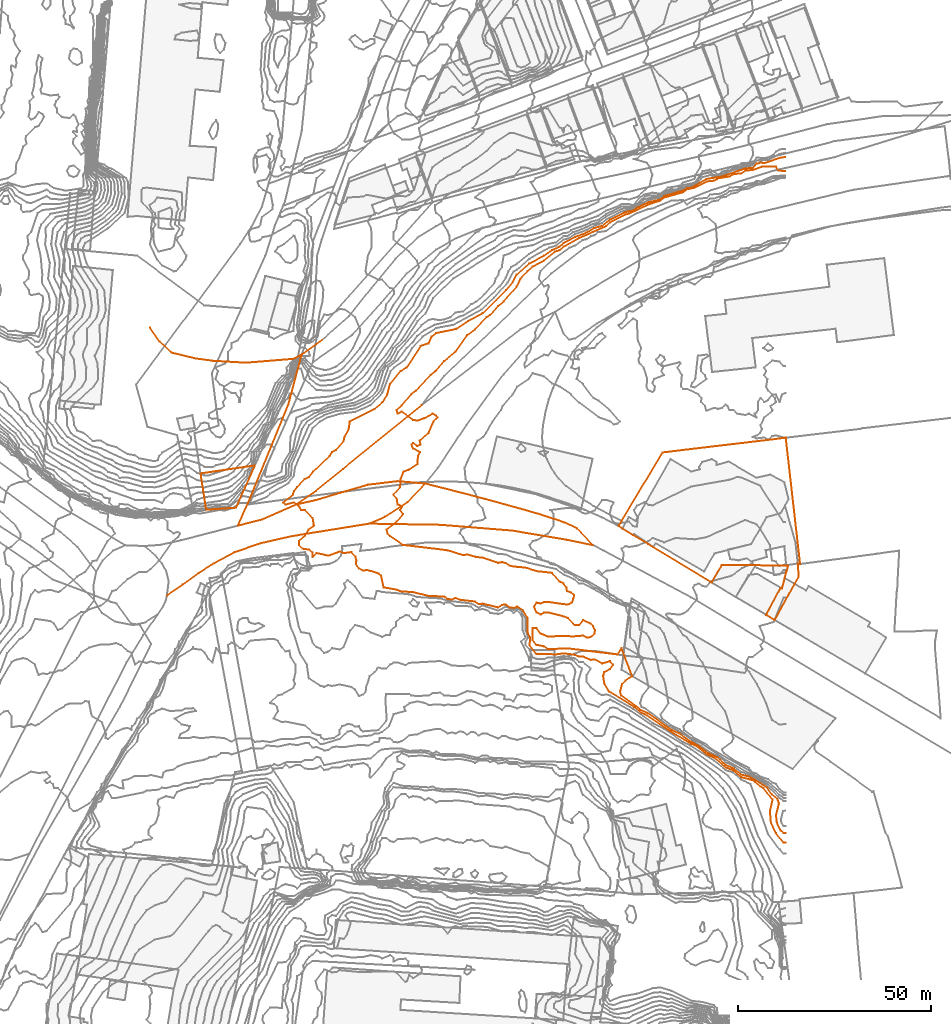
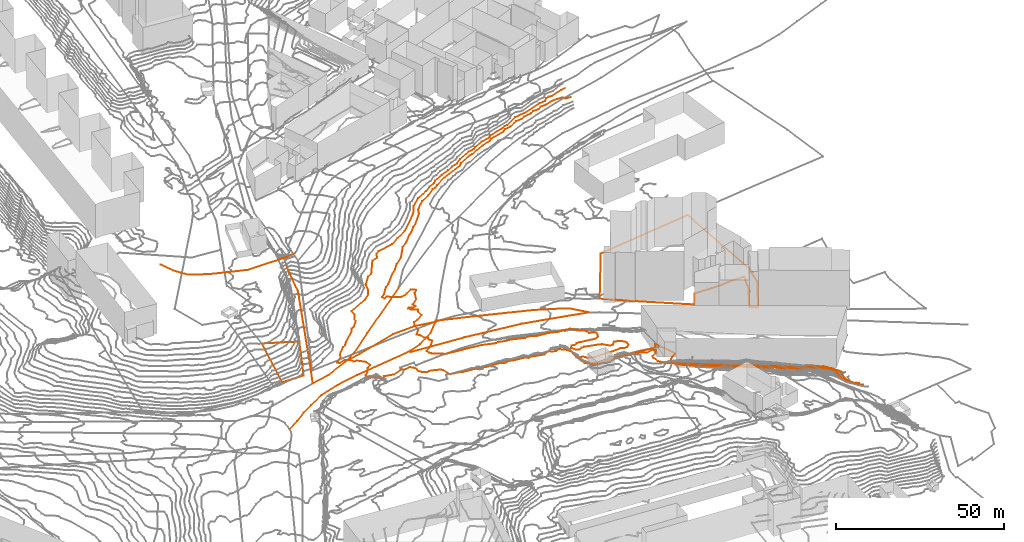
# Not in any storey, part 274 of 419: 14 proxies.
"""IFC2X3 model written with IfcOpenShell, lengths in metres."""

from ifc_helpers import new_model, entity, si_unit, frame, origin_with_axes, place, context, subcontext, project, element, save


model = new_model("IFC2X3")

# Units and contexts
model_context = context("Model", 3, precision=1e-05, world=origin_with_axes())
body_context = subcontext(model_context, "Body", "Model", "MODEL_VIEW")
ifc_project = project(units=[si_unit("AREAUNIT", "SQUARE_METRE"), si_unit("LENGTHUNIT", "METRE")], contexts=[model_context])

# Proxies
proxy_1_placement = place(None, frame((868.6920204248, 558.3976909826, 71.9), z_axis=(0.0, 0.0, 1.0), x_axis=(1.0, 0.0, 0.0)))
element("IfcBuildingElementProxy", 1, at=proxy_1_placement, Name="Route 33", ObjectType="NOTDEFINED", context=body_context, shape_type="GeometricCurveSet", body=[
    entity("IfcGeometricCurveSet", [entity("IfcPolyline", [entity("IfcCartesianPoint", [14.5, 10.4000000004, -0.9]), entity("IfcCartesianPoint", [10.0, 5.5999999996, -0.5]), entity("IfcCartesianPoint", [4.2000000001, 1.7999999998, -0.2]), entity("IfcCartesianPoint", [0.0, 0.0, 0.0])])]),
])
proxy_2_placement = place(None, frame((834.6920204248, 557.8976909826, 72.2), z_axis=(0.0, 0.0, 1.0), x_axis=(1.0, 0.0, 0.0)))
element("IfcBuildingElementProxy", 2, at=proxy_2_placement, Name="Route 42", ObjectType="NOTDEFINED", context=body_context, shape_type="GeometricCurveSet", body=[
    entity("IfcGeometricCurveSet", [entity("IfcPolyline", [entity("IfcCartesianPoint", [14.9, 5.4000000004, -0.1]), entity("IfcCartesianPoint", [6.3, 1.5999999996, -0.1]), entity("IfcCartesianPoint", [0.0, 0.0, 0.0])])]),
])
proxy_3_placement = place(None, frame((834.6920204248, 557.8976909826, 72.2), z_axis=(0.0, 0.0, 1.0), x_axis=(1.0, 0.0, 0.0)))
element("IfcBuildingElementProxy", 3, at=proxy_3_placement, Name="Route 70", ObjectType="NOTDEFINED", context=body_context, shape_type="GeometricCurveSet", body=[
    entity("IfcGeometricCurveSet", [entity("IfcPolyline", [entity("IfcCartesianPoint", [0.0, 0.0, 0.0]), entity("IfcCartesianPoint", [3.2000000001, 7.2999999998, 1.9]), entity("IfcCartesianPoint", [13.1, 31.5, 9.8]), entity("IfcCartesianPoint", [16.3, 43.5, 10.1]), entity("IfcCartesianPoint", [16.6, 44.4000000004, 10.1])])]),
])
proxy_4_placement = place(None, frame((848.9920204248, 601.0976909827, 86.4), z_axis=(0.0, 0.0, 1.0), x_axis=(1.0, 0.0, 0.0)))
element("IfcBuildingElementProxy", 4, at=proxy_4_placement, Name="Route 103", ObjectType="NOTDEFINED", context=body_context, shape_type="GeometricCurveSet", body=[
    entity("IfcGeometricCurveSet", [entity("IfcPolyline", [entity("IfcCartesianPoint", [7.6, 5.0, -3.6]), entity("IfcCartesianPoint", [2.2999999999, 1.2000000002, -1.0]), entity("IfcCartesianPoint", [0.0, 0.0, 0.0])])]),
])
proxy_5_placement = place(None, frame((849.5920204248, 563.2976909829, 72.1), z_axis=(0.0, 0.0, 1.0), x_axis=(1.0, 0.0, 0.0)))
element("IfcBuildingElementProxy", 5, at=proxy_5_placement, Name="Route 166", ObjectType="NOTDEFINED", context=body_context, shape_type="GeometricCurveSet", body=[
    entity("IfcGeometricCurveSet", [entity("IfcPolyline", [entity("IfcCartesianPoint", [0.0, 0.0, 0.0]), entity("IfcCartesianPoint", [5.3, 3.5999999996, -0.1]), entity("IfcCartesianPoint", [12.3, 9.2999999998, -0.1]), entity("IfcCartesianPoint", [32.7, 25.7999999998, -0.6])])]),
])
proxy_6_placement = place(None, frame((811.8920204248, 609.1976909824, 92.3), z_axis=(0.0, 0.0, 1.0), x_axis=(1.0, 0.0, 0.0)))
element("IfcBuildingElementProxy", 6, at=proxy_6_placement, Name="Route 208", ObjectType="NOTDEFINED", context=body_context, shape_type="GeometricCurveSet", body=[
    entity("IfcGeometricCurveSet", [entity("IfcPolyline", [entity("IfcCartesianPoint", [37.1, -8.0999999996, -5.9]), entity("IfcCartesianPoint", [24.7999999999, -9.0999999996, -5.1]), entity("IfcCartesianPoint", [16.3999999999, -8.5999999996, -3.5]), entity("IfcCartesianPoint", [11.7999999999, -8.0, -2.8]), entity("IfcCartesianPoint", [5.6, -6.5, -1.7]), entity("IfcCartesianPoint", [2.5, -3.5999999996, -0.9]), entity("IfcCartesianPoint", [0.0, 0.0, 0.0])])]),
])
proxy_7_placement = place(None, frame((883.1920204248, 568.7976909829, 71.4), z_axis=(0.0, 0.0, 1.0), x_axis=(1.0, 0.0, 0.0)))
element("IfcBuildingElementProxy", 7, at=proxy_7_placement, Name="Route 218", ObjectType="NOTDEFINED", context=body_context, shape_type="GeometricCurveSet", body=[
    entity("IfcGeometricCurveSet", [entity("IfcPolyline", [entity("IfcCartesianPoint", [43.5, -16.0, -2.5]), entity("IfcCartesianPoint", [39.4, -11.6000000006, -2.3]), entity("IfcCartesianPoint", [36.2000000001, -10.1000000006, -2.2]), entity("IfcCartesianPoint", [29.2000000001, -7.8000000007, -1.6]), entity("IfcCartesianPoint", [15.6, -4.0, -0.9]), entity("IfcCartesianPoint", [0.0, 0.0, 0.0])])]),
])
proxy_8_placement = place(None, frame((849.5920204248, 563.2976909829, 72.1), z_axis=(0.0, 0.0, 1.0), x_axis=(1.0, 0.0, 0.0)))
element("IfcBuildingElementProxy", 8, at=proxy_8_placement, Name="Route 302", ObjectType="NOTDEFINED", context=body_context, shape_type="GeometricCurveSet", body=[
    entity("IfcGeometricCurveSet", [entity("IfcPolyline", [entity("IfcCartesianPoint", [0.0, 0.0, 0.0]), entity("IfcCartesianPoint", [5.2, 1.1999999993, -0.1]), entity("IfcCartesianPoint", [18.8, 5.1999999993, -0.2]), entity("IfcCartesianPoint", [26.5, 6.0999999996, -0.6]), entity("IfcCartesianPoint", [33.6, 5.5, -1.1])])]),
])
proxy_9_placement = place(None, frame((816.2920204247, 539.7976909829, 73.0), z_axis=(0.0, 0.0, 1.0), x_axis=(1.0, 0.0, 0.0)))
element("IfcBuildingElementProxy", 9, at=proxy_9_placement, Name="Route 304", ObjectType="NOTDEFINED", context=body_context, shape_type="GeometricCurveSet", body=[
    entity("IfcGeometricCurveSet", [entity("IfcPolyline", [entity("IfcCartesianPoint", [52.4, 18.5999999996, -1.1]), entity("IfcCartesianPoint", [32.0, 15.2999999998, -0.8]), entity("IfcCartesianPoint", [24.2000000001, 13.5, -0.6]), entity("IfcCartesianPoint", [17.5, 11.1999999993, -0.5]), entity("IfcCartesianPoint", [12.1000000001, 8.2999999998, -0.5]), entity("IfcCartesianPoint", [8.2000000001, 5.7999999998, -0.4]), entity("IfcCartesianPoint", [4.1000000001, 2.7999999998, -0.3]), entity("IfcCartesianPoint", [0.0, 0.0, 0.0])])]),
])
proxy_10_placement = place(None, frame((868.6920204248, 558.3976909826, 71.4), z_axis=(0.0, 0.0, 1.0), x_axis=(1.0, 0.0, 0.0)))
element("IfcBuildingElementProxy", 10, at=proxy_10_placement, Name="Route 307", ObjectType="NOTDEFINED", context=body_context, shape_type="GeometricCurveSet", body=[
    entity("IfcGeometricCurveSet", [entity("IfcPolyline", [entity("IfcCartesianPoint", [58.0, -5.5999999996, -2.5]), entity("IfcCartesianPoint", [51.3, -4.2000000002, -2.3]), entity("IfcCartesianPoint", [37.0, -1.7999999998, -1.6]), entity("IfcCartesianPoint", [18.4, -0.2999999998, -0.9]), entity("IfcCartesianPoint", [0.0, 0.0, 0.0])])]),
])
proxy_11_placement = place(None, frame((933.2820204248, 557.7476909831, 68.5740369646), z_axis=(0.0, 0.0, 1.0), x_axis=(1.0, 0.0, 0.0)))
element("IfcBuildingElementProxy", 11, at=proxy_11_placement, Name="Cadastre 22", ObjectType="NOTDEFINED", context=body_context, shape_type="GeometricCurveSet", body=[
    entity("IfcGeometricCurveSet", [entity("IfcPolyline", [entity("IfcCartesianPoint", [0.7899999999, 1.3199999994, 0.4207185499]), entity("IfcCartesianPoint", [11.4099999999, 19.0999999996, 0.8636112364]), entity("IfcCartesianPoint", [43.38, 22.9099999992, 1.3501617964]), entity("IfcCartesianPoint", [47.1, -9.8100000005, -0.871437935]), entity("IfcCartesianPoint", [46.5, -9.6800000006, -0.7817386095]), entity("IfcCartesianPoint", [46.74, -13.0500000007, -2.1540372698]), entity("IfcCartesianPoint", [45.62, -14.9500000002, -2.2720380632]), entity("IfcCartesianPoint", [40.5, -24.3200000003, -2.6283382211]), entity("IfcCartesianPoint", [38.25, -22.9900000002, -2.4271905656]), entity("IfcCartesianPoint", [42.0, -15.9900000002, -2.3297352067]), entity("IfcCartesianPoint", [42.36, -16.1500000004, -2.4280347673]), entity("IfcCartesianPoint", [43.1, -13.4900000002, -2.2112368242]), entity("IfcCartesianPoint", [43.49, -11.9400000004, -1.9689391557]), entity("IfcCartesianPoint", [43.96, -10.1600000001, -1.112936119]), entity("IfcCartesianPoint", [43.5199999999, -10.1800000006, -1.1267360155]), entity("IfcCartesianPoint", [40.0, -10.2300000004, -0.9704725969]), entity("IfcCartesianPoint", [35.61, -10.1000000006, -1.5247869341]), entity("IfcCartesianPoint", [32.73, -10.0300000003, -1.5952355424]), entity("IfcCartesianPoint", [26.7999999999, -10.0300000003, -1.3764684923]), entity("IfcCartesianPoint", [24.1499999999, -14.6100000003, -1.7332061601]), entity("IfcCartesianPoint", [7.76, -4.6600000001, -0.6861414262]), entity("IfcCartesianPoint", [3.84, -2.3300000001, -0.2964367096]), entity("IfcCartesianPoint", [0.0, 0.0, 0.0]), entity("IfcCartesianPoint", [0.7899999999, 1.3199999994, 0.4207185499])])]),
])
proxy_12_placement = place(None, frame((825.0420204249, 571.417690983, 81.9051187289), z_axis=(0.0, 0.0, 1.0), x_axis=(1.0, 0.0, 0.0)))
element("IfcBuildingElementProxy", 12, at=proxy_12_placement, Name="Cadastre 102", ObjectType="NOTDEFINED", context=body_context, shape_type="GeometricCurveSet", body=[
    entity("IfcGeometricCurveSet", [entity("IfcPolyline", [entity("IfcCartesianPoint", [0.0, 0.0, 0.0]), entity("IfcCartesianPoint", [14.0399999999, 2.0800000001, -5.4702206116]), entity("IfcCartesianPoint", [9.1699999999, -8.8900000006, -9.4673713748]), entity("IfcCartesianPoint", [1.4399999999, -9.4000000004, -8.8740918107]), entity("IfcCartesianPoint", [0.0, 0.0, 0.0])])]),
])
proxy_13_placement = place(None, frame((873.2587082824, 556.8976909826, 71.0), z_axis=(0.0, 0.0, 1.0), x_axis=(1.0, 0.0, 0.0)))
element("IfcBuildingElementProxy", 13, at=proxy_13_placement, Name="Contour 71.0 m", ObjectType="NOTDEFINED", context=body_context, shape_type="GeometricCurveSet", body=[
    entity("IfcGeometricCurveSet", [entity("IfcPolyline", [entity("IfcCartesianPoint", [103.3333121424, 92.8181786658, 0.0]), entity("IfcCartesianPoint", [101.4998940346, 93.0, 0.0]), entity("IfcCartesianPoint", [100.8332788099, 94.0, 0.0]), entity("IfcCartesianPoint", [97.2082883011, 94.0, 0.0]), entity("IfcCartesianPoint", [94.8333121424, 93.1213870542, 0.0]), entity("IfcCartesianPoint", [92.9761459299, 93.0, 0.0]), entity("IfcCartesianPoint", [91.8333121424, 92.2272750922, 0.0]), entity("IfcCartesianPoint", [89.8333121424, 92.0867059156, 0.0]), entity("IfcCartesianPoint", [88.8333121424, 91.4791661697, 0.0]), entity("IfcCartesianPoint", [86.0333159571, 91.0, 0.0]), entity("IfcCartesianPoint", [84.8333121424, 90.3623195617, 0.0]), entity("IfcCartesianPoint", [82.8333121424, 90.1458324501, 0.0]), entity("IfcCartesianPoint", [79.8333121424, 88.5669281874, 0.0]), entity("IfcCartesianPoint", [77.8333121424, 88.1551725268, 0.0]), entity("IfcCartesianPoint", [76.8333121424, 87.3698627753, 0.0]), entity("IfcCartesianPoint", [71.8333140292, 86.0, 0.0]), entity("IfcCartesianPoint", [70.8333121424, 85.1918613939, 0.0]), entity("IfcCartesianPoint", [67.8333121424, 84.2215902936, 0.0]), entity("IfcCartesianPoint", [62.8333121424, 81.8211377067, 0.0]), entity("IfcCartesianPoint", [61.8333121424, 81.6074078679, 0.0]), entity("IfcCartesianPoint", [57.8333121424, 79.5887097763, 0.0]), entity("IfcCartesianPoint", [56.8333121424, 78.5757585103, 0.0]), entity("IfcCartesianPoint", [49.8333121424, 75.5104917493, 0.0]), entity("IfcCartesianPoint", [45.8333121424, 73.2551011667, 0.0]), entity("IfcCartesianPoint", [44.8333121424, 72.3534503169, 0.0]), entity("IfcCartesianPoint", [43.6715466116, 72.0, 0.0]), entity("IfcCartesianPoint", [40.8333121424, 69.734938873, 0.0]), entity("IfcCartesianPoint", [37.8333121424, 68.1044774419, 0.0]), entity("IfcCartesianPoint", [36.5256123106, 67.0, 0.0]), entity("IfcCartesianPoint", [34.6635073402, 65.0, 0.0]), entity("IfcCartesianPoint", [33.7083161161, 63.0, 0.0]), entity("IfcCartesianPoint", [30.2463617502, 59.0, 0.0]), entity("IfcCartesianPoint", [28.8333121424, 57.9000025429, 0.0]), entity("IfcCartesianPoint", [26.8333121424, 55.6176510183, 0.0]), entity("IfcCartesianPoint", [25.8333169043, 55.0, 0.0]), entity("IfcCartesianPoint", [22.8333121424, 51.833340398, 0.0]), entity("IfcCartesianPoint", [20.8333121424, 50.3125119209, 0.0]), entity("IfcCartesianPoint", [17.8333121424, 46.0999847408, 0.0]), entity("IfcCartesianPoint", [14.8333121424, 43.5769242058, 0.0]), entity("IfcCartesianPoint", [12.6409942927, 41.0, 0.0]), entity("IfcCartesianPoint", [11.3147894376, 40.0, 0.0]), entity("IfcCartesianPoint", [7.6110852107, 36.0, 0.0]), entity("IfcCartesianPoint", [6.2499947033, 35.0, 0.0]), entity("IfcCartesianPoint", [3.8333121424, 32.0666802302, 0.0]), entity("IfcCartesianPoint", [2.583335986, 31.0, 0.0]), entity("IfcCartesianPoint", [2.8333121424, 30.0000500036, 0.0]), entity("IfcCartesianPoint", [3.8333121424, 30.5000250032, 0.0]), entity("IfcCartesianPoint", [6.8333121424, 28.39996948, 0.0]), entity("IfcCartesianPoint", [7.8333121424, 28.2000305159, 0.0]), entity("IfcCartesianPoint", [9.8333121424, 28.8333121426, 0.0]), entity("IfcCartesianPoint", [11.8333121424, 30.0000124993, 0.0]), entity("IfcCartesianPoint", [12.8333121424, 29.5000250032, 0.0]), entity("IfcCartesianPoint", [13.1666030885, 29.0, 0.0]), entity("IfcCartesianPoint", [12.0833598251, 28.0, 0.0]), entity("IfcCartesianPoint", [10.8333121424, 24.999966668, 0.0]), entity("IfcCartesianPoint", [8.4998940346, 23.0, 0.0]), entity("IfcCartesianPoint", [8.8333121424, 21.9999000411, 0.0]), entity("IfcCartesianPoint", [7.8333121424, 21.6665818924, 0.0]), entity("IfcCartesianPoint", [6.8333121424, 22.3749761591, 0.0]), entity("IfcCartesianPoint", [6.4047562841, 22.0, 0.0]), entity("IfcCartesianPoint", [6.8333121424, 21.000033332, 0.0]), entity("IfcCartesianPoint", [8.5832644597, 20.0, 0.0]), entity("IfcCartesianPoint", [8.0833598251, 19.0, 0.0]), entity("IfcCartesianPoint", [8.0, 17.0, 0.0]), entity("IfcCartesianPoint", [5.8333121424, 15.4999875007, 0.0]), entity("IfcCartesianPoint", [4.3333371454, 15.0, 0.0]), entity("IfcCartesianPoint", [3.583335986, 13.0, 0.0]), entity("IfcCartesianPoint", [3.4998940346, 11.0, 0.0]), entity("IfcCartesianPoint", [1.7280637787, 9.0, 0.0]), entity("IfcCartesianPoint", [2.6025474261, 8.0, 0.0]), entity("IfcCartesianPoint", [2.8333121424, 6.5000499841, 0.0]), entity("IfcCartesianPoint", [3.9762004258, 6.0, 0.0]), entity("IfcCartesianPoint", [3.4998940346, 5.0, 0.0]), entity("IfcCartesianPoint", [4.2332816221, 4.0, 0.0]), entity("IfcCartesianPoint", [2.5832644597, 2.0, 0.0]), entity("IfcCartesianPoint", [0.0, 0.0, 0.0]), entity("IfcCartesianPoint", [0.2333274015, -1.0, 0.0]), entity("IfcCartesianPoint", [0.8333121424, -1.7500238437, 0.0]), entity("IfcCartesianPoint", [4.1666030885, -4.0, 0.0]), entity("IfcCartesianPoint", [15.8333121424, -5.410258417, 0.0]), entity("IfcCartesianPoint", [19.8333121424, -6.676472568, 0.0]), entity("IfcCartesianPoint", [20.8333121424, -6.4722163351, 0.0]), entity("IfcCartesianPoint", [22.8333121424, -7.0833298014, 0.0]), entity("IfcCartesianPoint", [24.8333121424, -7.3181786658, 0.0]), entity("IfcCartesianPoint", [28.8333121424, -8.6458339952, 0.0]), entity("IfcCartesianPoint", [29.8333121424, -8.4782644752, 0.0]), entity("IfcCartesianPoint", [30.8333121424, -8.714283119, 0.0]), entity("IfcCartesianPoint", [31.8333121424, -9.3703693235, 0.0]), entity("IfcCartesianPoint", [32.8333121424, -9.6250019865, 0.0]), entity("IfcCartesianPoint", [35.8333121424, -9.8656767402, 0.0]), entity("IfcCartesianPoint", [38.8333121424, -10.8148064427, 0.0]), entity("IfcCartesianPoint", [42.8333121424, -11.2500476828, 0.0]), entity("IfcCartesianPoint", [44.8333121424, -13.4999749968, 0.0]), entity("IfcCartesianPoint", [45.8333288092, -14.0, 0.0]), entity("IfcCartesianPoint", [46.5605974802, -15.0, 0.0]), entity("IfcCartesianPoint", [46.722204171, -16.0, 0.0]), entity("IfcCartesianPoint", [47.8333121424, -16.3749940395, 0.0]), entity("IfcCartesianPoint", [48.6025474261, -17.0, 0.0]), entity("IfcCartesianPoint", [48.3333246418, -18.0, 0.0]), entity("IfcCartesianPoint", [47.9333350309, -19.0, 0.0]), entity("IfcCartesianPoint", [46.8333121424, -19.5000071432, 0.0]), entity("IfcCartesianPoint", [41.8333121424, -18.7894715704, 0.0]), entity("IfcCartesianPoint", [40.8333121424, -18.7500238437, 0.0]), entity("IfcCartesianPoint", [39.8333121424, -19.1666878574, 0.0]), entity("IfcCartesianPoint", [38.8333121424, -19.0000500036, 0.0]), entity("IfcCartesianPoint", [38.1667302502, -20.0, 0.0]), entity("IfcCartesianPoint", [38.8333121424, -21.4999500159, 0.0]), entity("IfcCartesianPoint", [39.8333121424, -21.9999000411, 0.0]), entity("IfcCartesianPoint", [40.8333121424, -21.4999500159, 0.0]), entity("IfcCartesianPoint", [41.8333121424, -21.4999875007, 0.0]), entity("IfcCartesianPoint", [45.8333121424, -22.5384705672, 0.0]), entity("IfcCartesianPoint", [47.0333426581, -23.0, 0.0]), entity("IfcCartesianPoint", [48.8333121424, -24.8333121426, 0.0]), entity("IfcCartesianPoint", [49.8333121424, -24.7999694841, 0.0]), entity("IfcCartesianPoint", [50.8333121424, -23.4999833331, 0.0]), entity("IfcCartesianPoint", [52.8333121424, -24.4000152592, 0.0]), entity("IfcCartesianPoint", [53.4332968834, -25.0, 0.0]), entity("IfcCartesianPoint", [53.9871357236, -26.0, 0.0]), entity("IfcCartesianPoint", [53.8333204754, -27.0, 0.0]), entity("IfcCartesianPoint", [52.8333121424, -27.9090719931, 0.0]), entity("IfcCartesianPoint", [51.833412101, -28.0, 0.0]), entity("IfcCartesianPoint", [50.8333121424, -27.5000083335, 0.0]), entity("IfcCartesianPoint", [47.8333121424, -27.7692352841, 0.0]), entity("IfcCartesianPoint", [46.8333121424, -27.5555461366, 0.0]), entity("IfcCartesianPoint", [41.8333121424, -27.7500238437, 0.0]), entity("IfcCartesianPoint", [39.8333121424, -27.000033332, 0.0]), entity("IfcCartesianPoint", [38.8333121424, -25.60003052, 0.0]), entity("IfcCartesianPoint", [37.8333121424, -25.60003052, 0.0]), entity("IfcCartesianPoint", [37.8333121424, -28.6521710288, 0.0]), entity("IfcCartesianPoint", [38.8333121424, -29.8888700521, 0.0]), entity("IfcCartesianPoint", [40.8333121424, -30.3157852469, 0.0]), entity("IfcCartesianPoint", [41.8333121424, -31.0129897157, 0.0]), entity("IfcCartesianPoint", [46.8333121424, -30.8235346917, 0.0]), entity("IfcCartesianPoint", [59.8333121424, -32.3912956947, 0.0]), entity("IfcCartesianPoint", [60.8333121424, -30.7142779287, 0.0]), entity("IfcCartesianPoint", [63.5833121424, -38.0, 0.0]), entity("IfcCartesianPoint", [61.8333121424, -39.117628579, 0.0]), entity("IfcCartesianPoint", [60.9999717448, -40.0, 0.0]), entity("IfcCartesianPoint", [60.4803815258, -42.0, 0.0]), entity("IfcCartesianPoint", [60.7687948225, -43.0, 0.0]), entity("IfcCartesianPoint", [65.8333121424, -46.7520019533, 0.0]), entity("IfcCartesianPoint", [67.8333121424, -47.7375873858, 0.0]), entity("IfcCartesianPoint", [73.8333121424, -51.9788354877, 0.0]), entity("IfcCartesianPoint", [75.8333121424, -52.915787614, 0.0]), entity("IfcCartesianPoint", [78.7643452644, -55.0, 0.0]), entity("IfcCartesianPoint", [80.7100241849, -56.0, 0.0]), entity("IfcCartesianPoint", [83.2975968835, -58.0, 0.0]), entity("IfcCartesianPoint", [85.5672572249, -59.0, 0.0]), entity("IfcCartesianPoint", [87.8333121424, -61.0256416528, 0.0]), entity("IfcCartesianPoint", [89.9476001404, -62.0, 0.0]), entity("IfcCartesianPoint", [91.8333121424, -63.5314699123, 0.0]), entity("IfcCartesianPoint", [93.8333121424, -64.0519492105, 0.0]), entity("IfcCartesianPoint", [95.6246782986, -65.0, 0.0]), entity("IfcCartesianPoint", [98.6351129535, -67.0, 0.0]), entity("IfcCartesianPoint", [99.8333121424, -68.7311828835, 0.0]), entity("IfcCartesianPoint", [101.3429259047, -70.0, 0.0]), entity("IfcCartesianPoint", [101.6088201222, -71.0, 0.0]), entity("IfcCartesianPoint", [100.9022790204, -74.0, 0.0]), entity("IfcCartesianPoint", [101.0941812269, -76.0, 0.0]), entity("IfcCartesianPoint", [102.0777596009, -78.0, 0.0]), entity("IfcCartesianPoint", [102.8333121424, -78.6071389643, 0.0]), entity("IfcCartesianPoint", [103.3333121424, -78.6071389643, 0.0])])]),
])
proxy_14_placement = place(None, frame((846.4669965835, 563.8976909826, 72.0), z_axis=(0.0, 0.0, 1.0), x_axis=(1.0, 0.0, 0.0)))
element("IfcBuildingElementProxy", 14, at=proxy_14_placement, Name="Contour 72.0 m", ObjectType="NOTDEFINED", context=body_context, shape_type="GeometricCurveSet", body=[
    entity("IfcGeometricCurveSet", [entity("IfcPolyline", [entity("IfcCartesianPoint", [130.1250238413, 89.5238099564, 0.0]), entity("IfcCartesianPoint", [128.6250238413, 89.2699966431, 0.0]), entity("IfcCartesianPoint", [124.6250238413, 87.9051721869, 0.0]), entity("IfcCartesianPoint", [123.6250238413, 88.0422518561, 0.0]), entity("IfcCartesianPoint", [122.6250238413, 87.7567582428, 0.0]), entity("IfcCartesianPoint", [121.6250238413, 86.6994231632, 0.0]), entity("IfcCartesianPoint", [119.6250238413, 86.5130897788, 0.0]), entity("IfcCartesianPoint", [113.6250238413, 84.4474579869, 0.0]), entity("IfcCartesianPoint", [109.6250238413, 83.840275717, 0.0]), entity("IfcCartesianPoint", [105.6250238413, 81.541935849, 0.0]), entity("IfcCartesianPoint", [104.6250238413, 81.4425285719, 0.0]), entity("IfcCartesianPoint", [103.6250238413, 80.8264848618, 0.0]), entity("IfcCartesianPoint", [98.6250238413, 79.3831416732, 0.0]), entity("IfcCartesianPoint", [97.6250238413, 78.4825588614, 0.0]), entity("IfcCartesianPoint", [94.6250238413, 77.7897714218, 0.0]), entity("IfcCartesianPoint", [91.6250238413, 76.3596491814, 0.0]), entity("IfcCartesianPoint", [90.6250238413, 75.6059600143, 0.0]), entity("IfcCartesianPoint", [88.6250238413, 75.2410257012, 0.0]), entity("IfcCartesianPoint", [84.6250238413, 73.2969681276, 0.0]), entity("IfcCartesianPoint", [82.6250238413, 71.6815645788, 0.0]), entity("IfcCartesianPoint", [80.6250238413, 71.1312495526, 0.0]), entity("IfcCartesianPoint", [78.6250238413, 69.9256754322, 0.0]), entity("IfcCartesianPoint", [75.6250238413, 68.7916661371, 0.0]), entity("IfcCartesianPoint", [72.6250238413, 67.236839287, 0.0]), entity("IfcCartesianPoint", [71.6250238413, 66.2747241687, 0.0]), entity("IfcCartesianPoint", [69.6250238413, 65.417476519, 0.0]), entity("IfcCartesianPoint", [67.6250238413, 63.9397554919, 0.0]), entity("IfcCartesianPoint", [63.6250238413, 61.875003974, 0.0]), entity("IfcCartesianPoint", [60.4076354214, 59.0, 0.0]), entity("IfcCartesianPoint", [59.3445318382, 57.0, 0.0]), entity("IfcCartesianPoint", [57.7457125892, 55.0, 0.0]), entity("IfcCartesianPoint", [51.6250238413, 49.0117672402, 0.0]), entity("IfcCartesianPoint", [47.9191401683, 47.0, 0.0]), entity("IfcCartesianPoint", [44.9583571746, 45.0, 0.0]), entity("IfcCartesianPoint", [39.6250238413, 43.8837139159, 0.0]), entity("IfcCartesianPoint", [38.4062745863, 43.0, 0.0]), entity("IfcCartesianPoint", [37.6250238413, 41.2353020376, 0.0]), entity("IfcCartesianPoint", [35.6250238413, 40.5641065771, 0.0]), entity("IfcCartesianPoint", [31.997125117, 35.0, 0.0]), entity("IfcCartesianPoint", [30.3250314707, 34.0, 0.0]), entity("IfcCartesianPoint", [27.6250238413, 30.7058744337, 0.0]), entity("IfcCartesianPoint", [26.940816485, 28.0, 0.0]), entity("IfcCartesianPoint", [25.7678872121, 26.0, 0.0]), entity("IfcCartesianPoint", [23.6250238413, 24.2608760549, 0.0]), entity("IfcCartesianPoint", [17.2250543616, 21.0, 0.0]), entity("IfcCartesianPoint", [16.9583147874, 19.0, 0.0]), entity("IfcCartesianPoint", [15.8250136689, 17.0, 0.0]), entity("IfcCartesianPoint", [15.6250238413, 15.8947516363, 0.0]), entity("IfcCartesianPoint", [13.6250238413, 13.5861987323, 0.0]), entity("IfcCartesianPoint", [12.6250238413, 13.1052483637, 0.0]), entity("IfcCartesianPoint", [12.0000119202, 12.0, 0.0]), entity("IfcCartesianPoint", [7.6917040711, 8.0, 0.0]), entity("IfcCartesianPoint", [6.6250238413, 6.6250059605, 0.0]), entity("IfcCartesianPoint", [5.5139315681, 6.0, 0.0]), entity("IfcCartesianPoint", [3.5416746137, 4.0, 0.0]), entity("IfcCartesianPoint", [2.7679121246, 3.0, 0.0]), entity("IfcCartesianPoint", [2.4821355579, 2.0, 0.0]), entity("IfcCartesianPoint", [0.0, 0.0, 0.0]), entity("IfcCartesianPoint", [0.6250238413, -0.5555649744, 0.0]), entity("IfcCartesianPoint", [2.6250238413, 1.42856e-05, 0.0]), entity("IfcCartesianPoint", [4.1250488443, -1.0, 0.0]), entity("IfcCartesianPoint", [4.6250238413, -1.9999499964, 0.0]), entity("IfcCartesianPoint", [5.6250571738, -2.0, 0.0]), entity("IfcCartesianPoint", [7.6250405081, -4.0, 0.0]), entity("IfcCartesianPoint", [7.9106914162, -6.0, 0.0]), entity("IfcCartesianPoint", [6.513893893, -7.0, 0.0]), entity("IfcCartesianPoint", [5.6250238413, -8.60003052, 0.0]), entity("IfcCartesianPoint", [4.0249933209, -10.0, 0.0]), entity("IfcCartesianPoint", [4.1250338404, -11.0, 0.0]), entity("IfcCartesianPoint", [5.0535796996, -12.0, 0.0]), entity("IfcCartesianPoint", [6.6250238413, -12.2353020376, 0.0]), entity("IfcCartesianPoint", [7.5535796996, -13.0, 0.0]), entity("IfcCartesianPoint", [7.6250238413, -14.1111299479, 0.0]), entity("IfcCartesianPoint", [8.6250238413, -13.1250238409, 0.0]), entity("IfcCartesianPoint", [11.6250238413, -13.7999694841, 0.0]), entity("IfcCartesianPoint", [14.6250238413, -12.7142779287, 0.0]), entity("IfcCartesianPoint", [15.6250238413, -13.1578862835, 0.0]), entity("IfcCartesianPoint", [17.6250238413, -12.8500038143, 0.0]), entity("IfcCartesianPoint", [18.6750333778, -14.0, 0.0]), entity("IfcCartesianPoint", [18.946440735, -15.0, 0.0]), entity("IfcCartesianPoint", [18.8068451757, -16.0, 0.0]), entity("IfcCartesianPoint", [19.6250238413, -17.1111299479, 0.0]), entity("IfcCartesianPoint", [20.6250238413, -17.6922941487, 0.0]), entity("IfcCartesianPoint", [21.6250238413, -17.4999937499, 0.0]), entity("IfcCartesianPoint", [22.6250238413, -17.7500238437, 0.0]), entity("IfcCartesianPoint", [24.6250238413, -18.4285558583, 0.0]), entity("IfcCartesianPoint", [25.352309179, -19.0, 0.0]), entity("IfcCartesianPoint", [26.0059866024, -22.0, 0.0]), entity("IfcCartesianPoint", [29.6250238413, -22.659567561, 0.0]), entity("IfcCartesianPoint", [30.1583639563, -23.0, 0.0]), entity("IfcCartesianPoint", [33.6250238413, -23.2727267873, 0.0]), entity("IfcCartesianPoint", [37.6250238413, -24.2249984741, 0.0]), entity("IfcCartesianPoint", [41.6250238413, -24.391998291, 0.0]), entity("IfcCartesianPoint", [42.5993870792, -25.0, 0.0]), entity("IfcCartesianPoint", [43.6250238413, -25.1600002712, 0.0]), entity("IfcCartesianPoint", [44.6250238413, -24.7599995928, 0.0]), entity("IfcCartesianPoint", [45.6250238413, -25.2179467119, 0.0]), entity("IfcCartesianPoint", [49.6250238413, -25.690718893, 0.0]), entity("IfcCartesianPoint", [50.6250238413, -26.3775525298, 0.0]), entity("IfcCartesianPoint", [51.6250238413, -26.2545446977, 0.0]), entity("IfcCartesianPoint", [55.6250238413, -27.2000026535, 0.0]), entity("IfcCartesianPoint", [56.6250238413, -26.5547931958, 0.0]), entity("IfcCartesianPoint", [57.6250238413, -26.4652414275, 0.0]), entity("IfcCartesianPoint", [58.6250238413, -27.1896561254, 0.0]), entity("IfcCartesianPoint", [59.6250238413, -27.3636366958, 0.0]), entity("IfcCartesianPoint", [60.6250238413, -26.9787268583, 0.0]), entity("IfcCartesianPoint", [62.1309752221, -28.0, 0.0]), entity("IfcCartesianPoint", [63.3401065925, -30.0, 0.0]), entity("IfcCartesianPoint", [63.2511493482, -33.0, 0.0]), entity("IfcCartesianPoint", [63.3955868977, -34.0, 0.0]), entity("IfcCartesianPoint", [64.0034008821, -35.0, 0.0]), entity("IfcCartesianPoint", [63.7768085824, -37.0, 0.0]), entity("IfcCartesianPoint", [65.6250238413, -39.2820532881, 0.0]), entity("IfcCartesianPoint", [70.6250238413, -39.3644069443, 0.0]), entity("IfcCartesianPoint", [72.6250238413, -39.1056350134, 0.0]), entity("IfcCartesianPoint", [75.6250238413, -39.5042711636, 0.0]), entity("IfcCartesianPoint", [76.6250238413, -39.9729774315, 0.0]), entity("IfcCartesianPoint", [77.6250238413, -39.9459445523, 0.0]), entity("IfcCartesianPoint", [79.6250238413, -40.7916679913, 0.0]), entity("IfcCartesianPoint", [80.6250238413, -40.673078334, 0.0]), entity("IfcCartesianPoint", [82.6250238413, -41.7073129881, 0.0]), entity("IfcCartesianPoint", [84.6250238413, -41.1521735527, 0.0]), entity("IfcCartesianPoint", [85.4548076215, -42.0, 0.0]), entity("IfcCartesianPoint", [84.6250238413, -43.1428610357, 0.0]), entity("IfcCartesianPoint", [83.125030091, -44.0, 0.0]), entity("IfcCartesianPoint", [82.8942512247, -45.0, 0.0]), entity("IfcCartesianPoint", [83.2007856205, -47.0, 0.0]), entity("IfcCartesianPoint", [84.41989062, -49.0, 0.0]), entity("IfcCartesianPoint", [90.9267476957, -53.0, 0.0]), entity("IfcCartesianPoint", [92.6250238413, -54.4367098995, 0.0]), entity("IfcCartesianPoint", [93.900885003, -55.0, 0.0]), entity("IfcCartesianPoint", [100.6250238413, -59.5423733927, 0.0]), entity("IfcCartesianPoint", [105.6250238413, -62.5510216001, 0.0]), entity("IfcCartesianPoint", [106.8168039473, -63.0, 0.0]), entity("IfcCartesianPoint", [109.6250238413, -65.2666680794, 0.0]), entity("IfcCartesianPoint", [111.6250238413, -66.1538443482, 0.0]), entity("IfcCartesianPoint", [114.6250238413, -68.6666682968, 0.0]), entity("IfcCartesianPoint", [116.6250238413, -69.4731166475, 0.0]), entity("IfcCartesianPoint", [118.6250238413, -71.2101922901, 0.0]), entity("IfcCartesianPoint", [121.6250238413, -71.9626871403, 0.0]), entity("IfcCartesianPoint", [123.6250238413, -73.6608705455, 0.0]), entity("IfcCartesianPoint", [124.4050226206, -74.0, 0.0]), entity("IfcCartesianPoint", [126.7704809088, -77.0, 0.0]), entity("IfcCartesianPoint", [126.0944131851, -80.0, 0.0]), entity("IfcCartesianPoint", [126.359401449, -83.0, 0.0]), entity("IfcCartesianPoint", [127.6250238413, -85.648651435, 0.0]), entity("IfcCartesianPoint", [129.6250238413, -88.1538401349, 0.0]), entity("IfcCartesianPoint", [130.1250238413, -88.1538401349, 0.0])])]),
])

save(model, "model.ifc")
